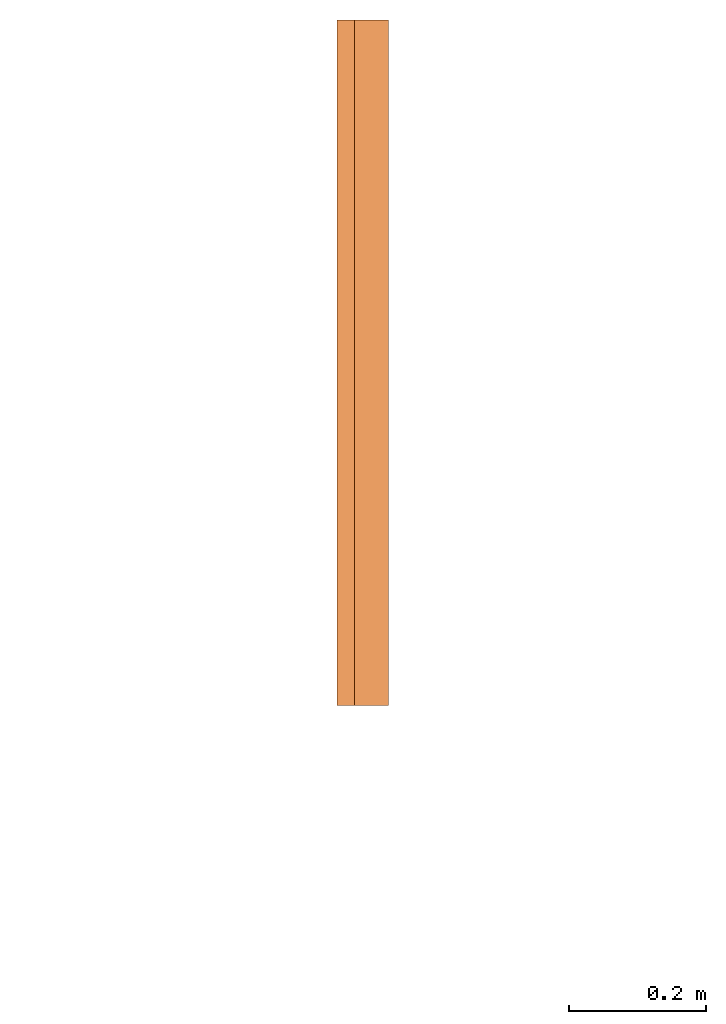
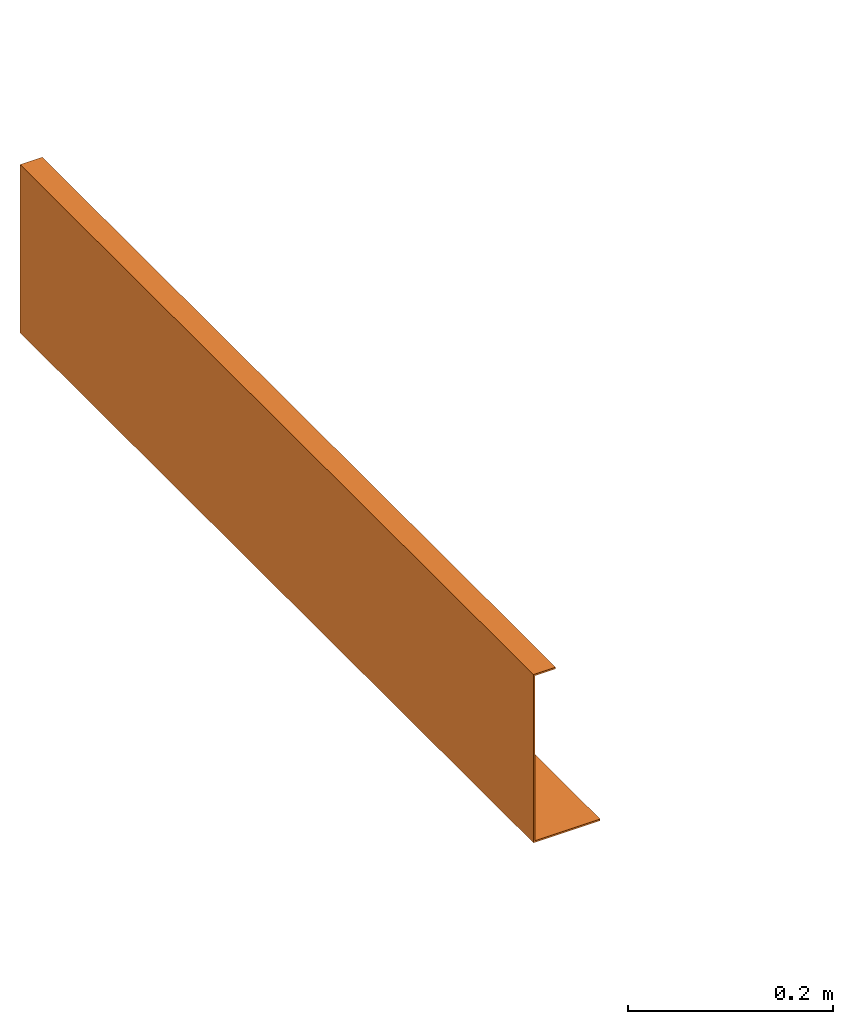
# One storey, part 2 of 2: 1 proxy.
"""IFC2X3 building model written with IfcOpenShell, lengths in millimetres."""

import ifcopenshell
import ifcopenshell.guid

model = None  # the IFC model being written
_history = None  # IfcOwnerHistory: only IFC2X3 demands one
_inside = {}  # id of a spatial element -> (the spatial element, [elements in it])
_under = {}  # id of a project, library or spatial element -> (it, [spatial elements below it])
_declared = {}  # id of a project -> (the project, [libraries it declares])
_typed = {}  # id of a type object -> (the type object, [elements of that type])
_made_of = {}  # id of a material, layer set ... -> (it, [elements and type objects made of it])


def new_model(schema):
    """Start an empty IFC model of exactly this schema.

    Asked for "IFC4X3", IfcOpenShell would pick the latest addendum, in which some entities
    have other attributes; the version numbers below select the first issue.
    IFC2X3 requires an IfcOwnerHistory on every rooted entity: one is made here for all.
    """
    global model, _history
    if schema == "IFC4X3":
        model = ifcopenshell.file(schema_version=(4, 3, 0, 0))
    else:
        model = ifcopenshell.file(schema=schema)
    _inside.clear()
    _under.clear()
    _declared.clear()
    _typed.clear()
    _made_of.clear()
    _history = None
    if model.schema == "IFC2X3":
        org = make("IfcOrganization", Name="unknown")
        user = make(
            "IfcPersonAndOrganization",
            ThePerson=make("IfcPerson", FamilyName="unknown"),
            TheOrganization=org,
        )
        app = make(
            "IfcApplication",
            ApplicationDeveloper=org,
            Version="unknown",
            ApplicationFullName="unknown",
            ApplicationIdentifier="unknown",
        )
        _history = make(
            "IfcOwnerHistory",
            OwningUser=user,
            OwningApplication=app,
            ChangeAction="ADDED",
            CreationDate=0,
        )
    return model


def make(cls, **values):
    """One entity of the class cls with the attributes given. An attribute that is None is left unset."""
    return model.create_entity(
        cls, **{name: value for name, value in values.items() if value is not None}
    )


def entity(cls, *values):
    """Any entity or typed value of the class cls, its attributes in the order of the schema. None: left unset."""
    e = model.create_entity(cls)
    for i, value in enumerate(values):
        if value is not None:
            e[i] = value
    return e


def rooted(cls, **values):
    """An entity with a GlobalId (a new one), such as an element, a storey or a relation."""
    return make(cls, GlobalId=ifcopenshell.guid.new(), OwnerHistory=_history, **values)


def si_unit(unit_type, name, prefix=None):
    """IfcSIUnit, for example si_unit("LENGTHUNIT", "METRE", prefix="MILLI")."""
    return make("IfcSIUnit", UnitType=unit_type, Prefix=prefix, Name=name)


def converted_unit(unit_type, name, factor, base, dimensions=None, offset=None):
    """IfcConversionBasedUnit, such as the inch: factor (a typed value) times the base unit."""
    return make(
        "IfcConversionBasedUnit"
        if offset is None
        else "IfcConversionBasedUnitWithOffset",
        ConversionOffset=offset,
        Dimensions=None
        if dimensions is None
        else entity("IfcDimensionalExponents", *dimensions),
        UnitType=unit_type,
        Name=name,
        ConversionFactor=make(
            "IfcMeasureWithUnit", ValueComponent=factor, UnitComponent=base
        ),
    )


def derived_unit(unit_type, elements):
    """IfcDerivedUnit: a product of units, each with its exponent."""
    return make(
        "IfcDerivedUnit",
        Elements=[
            make("IfcDerivedUnitElement", Unit=unit, Exponent=power)
            for unit, power in elements
        ],
        UnitType=unit_type,
    )


def assignment(units):
    """IfcUnitAssignment: the units of a project."""
    return None if units is None else make("IfcUnitAssignment", Units=units)


def point(xyz):
    """IfcCartesianPoint."""
    return None if xyz is None else make("IfcCartesianPoint", Coordinates=xyz)


def direction(xyz):
    """IfcDirection."""
    return None if xyz is None else make("IfcDirection", DirectionRatios=xyz)


def frame(location, z_axis=None, x_axis=None):
    """IfcAxis2Placement3D, a coordinate frame: its origin and axes. An axis left out is left unset."""
    return make(
        "IfcAxis2Placement3D",
        Location=point(location),
        Axis=direction(z_axis),
        RefDirection=direction(x_axis),
    )


def origin():
    """The frame at (0, 0, 0) with its axes left unset."""
    return frame((0.0, 0.0, 0.0))


def place(relative_to, where):
    """IfcLocalPlacement: puts the frame where relative to a parent placement (None: the world)."""
    return make(
        "IfcLocalPlacement", PlacementRelTo=relative_to, RelativePlacement=where
    )


def context(
    kind, dimensions, precision=None, world=None, true_north=None, identifier=None
):
    """IfcGeometricRepresentationContext, for example the 3D "Model" context."""
    return make(
        "IfcGeometricRepresentationContext",
        ContextIdentifier=identifier,
        ContextType=kind,
        CoordinateSpaceDimension=dimensions,
        Precision=precision,
        WorldCoordinateSystem=world,
        TrueNorth=true_north,
    )


def subcontext(parent, identifier, kind, view, scale=None):
    """IfcGeometricRepresentationSubContext, for example "Body" below "Model"."""
    return make(
        "IfcGeometricRepresentationSubContext",
        ContextIdentifier=identifier,
        ContextType=kind,
        ParentContext=parent,
        TargetScale=scale,
        TargetView=view,
    )


def project(units=None, contexts=None):
    """IfcProject with its units and contexts."""
    return rooted(
        "IfcProject",
        Name="project",
        RepresentationContexts=contexts,
        UnitsInContext=assignment(units),
    )


def spatial(cls, under=None, at=None, **own):
    """A site, building, storey or space (cls), placed at a placement, below another one or the project."""
    s = rooted(cls, ObjectPlacement=at, **own)
    if under is not None:
        _under.setdefault(under.id(), (under, []))[1].append(s)
    return s


def polyline(points):
    """IfcPolyline through the points."""
    return make("IfcPolyline", Points=[point(p) for p in points])


def outline(outer, holes=None, kind="AREA"):
    """IfcArbitraryClosedProfileDef: a profile drawn as a closed curve; with holes, ...WithVoids."""
    if holes is None:
        return make("IfcArbitraryClosedProfileDef", ProfileType=kind, OuterCurve=outer)
    return make(
        "IfcArbitraryProfileDefWithVoids",
        ProfileType=kind,
        OuterCurve=outer,
        InnerCurves=holes,
    )


def extrude(swept, where, along, depth):
    """IfcExtrudedAreaSolid: the profile swept, set in the frame where, extruded along a direction by depth."""
    return make(
        "IfcExtrudedAreaSolid",
        SweptArea=swept,
        Position=where,
        ExtrudedDirection=direction(along),
        Depth=depth,
    )


def shape(context_of_items, identifier, shape_type, items):
    """IfcShapeRepresentation: the items that make up one representation, for example the "Body"."""
    return make(
        "IfcShapeRepresentation",
        ContextOfItems=context_of_items,
        RepresentationIdentifier=identifier,
        RepresentationType=shape_type,
        Items=items,
    )


def source(mapping_origin, context_of_items, identifier, shape_type, items):
    """IfcRepresentationMap: a shape defined once, which mapped items show again and again."""
    return make(
        "IfcRepresentationMap",
        MappingOrigin=mapping_origin,
        MappedRepresentation=shape(context_of_items, identifier, shape_type, items),
    )


def transform(
    local_origin,
    x_axis=None,
    y_axis=None,
    z_axis=None,
    scale=None,
    scale2=None,
    scale3=None,
    uniform=True,
):
    """IfcCartesianTransformationOperator3D, or its non-uniform kind. x_axis, y_axis, z_axis: its Axis1, 2, 3."""
    if uniform:
        return make(
            "IfcCartesianTransformationOperator3D",
            Axis1=direction(x_axis),
            Axis2=direction(y_axis),
            LocalOrigin=point(local_origin),
            Scale=scale,
            Axis3=direction(z_axis),
        )
    return make(
        "IfcCartesianTransformationOperator3DnonUniform",
        Axis1=direction(x_axis),
        Axis2=direction(y_axis),
        LocalOrigin=point(local_origin),
        Scale=scale,
        Axis3=direction(z_axis),
        Scale2=scale2,
        Scale3=scale3,
    )


def mapped(mapping_source, mapping_target):
    """IfcMappedItem: shows the shape of a source again, moved by a transform."""
    return make(
        "IfcMappedItem", MappingSource=mapping_source, MappingTarget=mapping_target
    )


def material(Name=None, Category=None):
    """IfcMaterial."""
    return make("IfcMaterial", Name=Name, Category=Category)


def made_of(thing, what):
    """Note that an element or type object is made of a material, layer set ...; save() writes the relation."""
    if what is not None:
        _made_of.setdefault(what.id(), (what, []))[1].append(thing)
    return thing


def type_object(cls, material=None, **own):
    """A type object (cls), such as IfcWallType, which elements share."""
    return made_of(rooted(cls, **own), material)


def type_shapes(of_type, sources):
    """Give a type object the sources (RepresentationMaps) that its elements show as mapped items."""
    of_type.RepresentationMaps = sources


def element(
    cls,
    number,
    at=None,
    inside=None,
    cuts=None,
    type_object=None,
    material=None,
    context=None,
    identifier="Body",
    shape_type=None,
    held_by="IfcProductDefinitionShape",
    body=None,
    shapes=None,
    **own,
):
    """One element of the class cls, such as IfcWall. Its Tag is "e" and its number.

    at: its placement. inside: the storey or other place that contains it. cuts: it is an
    opening in that element (IfcRelVoidsElement). A single representation is given by context,
    identifier, shape_type and body (its items); several are given by shapes. held_by: the class
    of the entity that holds the representations. save() writes the other relations.
    """
    e = rooted(cls, Tag="e%d" % number, ObjectPlacement=at, **own)
    if body is not None:
        shapes = [shape(context, identifier, shape_type, body)]
    if shapes is not None:
        e.Representation = make(held_by, Representations=shapes)
    if inside is not None:
        _inside.setdefault(inside.id(), (inside, []))[1].append(e)
    if cuts is not None:
        rooted(
            "IfcRelVoidsElement", RelatingBuildingElement=cuts, RelatedOpeningElement=e
        )
    if type_object is not None:
        _typed.setdefault(type_object.id(), (type_object, []))[1].append(e)
    return made_of(e, material)


def aggregate(whole, parts):
    """IfcRelAggregates: a whole, such as a stair, and the parts it consists of."""
    return rooted("IfcRelAggregates", RelatingObject=whole, RelatedObjects=parts)


def save(model, path):
    """Write the relations noted so far, then the file.

    IfcRelAggregates (storeys below a building ...), IfcRelContainedInSpatialStructure (elements
    in a storey), IfcRelDefinesByType, IfcRelAssociatesMaterial and IfcRelDeclares: one each for
    every whole, place, type object, material and project.
    """
    for whole, parts in _under.values():
        aggregate(whole, parts)
    for where, things in _inside.values():
        rooted(
            "IfcRelContainedInSpatialStructure",
            RelatedElements=things,
            RelatingStructure=where,
        )
    for kind, things in _typed.values():
        rooted("IfcRelDefinesByType", RelatedObjects=things, RelatingType=kind)
    for what, things in _made_of.values():
        rooted("IfcRelAssociatesMaterial", RelatedObjects=things, RelatingMaterial=what)
    for by, libraries in _declared.values():
        rooted("IfcRelDeclares", RelatingContext=by, RelatedDefinitions=libraries)
    model.write(path)


model = new_model("IFC2X3")

# Units and contexts
model_context = context("Model", 3, precision=0.01, world=origin(), true_north=direction((6.12303176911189e-17, 1.0)))
body_context = subcontext(model_context, "Body", "Model", "MODEL_VIEW")
ifc_project = project(units=[si_unit("LENGTHUNIT", "METRE", prefix="MILLI"), si_unit("AREAUNIT", "SQUARE_METRE"), si_unit("VOLUMEUNIT", "CUBIC_METRE"), converted_unit("PLANEANGLEUNIT", "DEGREE", entity("IfcRatioMeasure", 0.0174532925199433), si_unit("PLANEANGLEUNIT", "RADIAN"), dimensions=[0, 0, 0, 0, 0, 0, 0]), si_unit("MASSUNIT", "GRAM", prefix="KILO"), derived_unit("MASSDENSITYUNIT", [(si_unit("MASSUNIT", "GRAM", prefix="KILO"), 1), (si_unit("LENGTHUNIT", "METRE"), -3)]), si_unit("TIMEUNIT", "SECOND"), si_unit("FREQUENCYUNIT", "HERTZ"), si_unit("THERMODYNAMICTEMPERATUREUNIT", "DEGREE_CELSIUS"), derived_unit("THERMALTRANSMITTANCEUNIT", [(si_unit("MASSUNIT", "GRAM", prefix="KILO"), 1), (si_unit("THERMODYNAMICTEMPERATUREUNIT", "KELVIN"), -1), (si_unit("TIMEUNIT", "SECOND"), -3)]), derived_unit("VOLUMETRICFLOWRATEUNIT", [(si_unit("LENGTHUNIT", "METRE"), 3), (si_unit("TIMEUNIT", "SECOND"), -1)]), si_unit("ELECTRICCURRENTUNIT", "AMPERE"), si_unit("ELECTRICVOLTAGEUNIT", "VOLT"), si_unit("POWERUNIT", "WATT"), si_unit("FORCEUNIT", "NEWTON", prefix="KILO"), si_unit("ILLUMINANCEUNIT", "LUX"), si_unit("LUMINOUSFLUXUNIT", "LUMEN"), si_unit("LUMINOUSINTENSITYUNIT", "CANDELA"), derived_unit("USERDEFINED", [(si_unit("MASSUNIT", "GRAM", prefix="KILO"), -1), (si_unit("LENGTHUNIT", "METRE"), -2), (si_unit("TIMEUNIT", "SECOND"), 3), (si_unit("LUMINOUSFLUXUNIT", "LUMEN"), 1)]), derived_unit("LINEARVELOCITYUNIT", [(si_unit("LENGTHUNIT", "METRE"), 1), (si_unit("TIMEUNIT", "SECOND"), -1)]), si_unit("PRESSUREUNIT", "PASCAL"), derived_unit("USERDEFINED", [(si_unit("LENGTHUNIT", "METRE"), -2), (si_unit("MASSUNIT", "GRAM", prefix="KILO"), 1), (si_unit("TIMEUNIT", "SECOND"), -2)])], contexts=[model_context])

# Site, building, storey
site_placement = place(None, origin())
site = spatial("IfcSite", under=ifc_project, at=site_placement, Name="Default", CompositionType="ELEMENT")
building_placement = place(site_placement, origin())
building = spatial("IfcBuilding", under=site, at=building_placement, CompositionType="ELEMENT")
storey_placement = place(building_placement, origin())
storey = spatial("IfcBuildingStorey", under=building, at=storey_placement, Name="Level 1", CompositionType="ELEMENT", Elevation=0.0)

# Proxy
ifc_material = material(Name="ISQ 300, Galvanized Z275")
building_element_proxy_type = type_object("IfcBuildingElementProxyType", Name="Bond-Lok FD1-Kerb Flashing", PredefinedType="NOTDEFINED", material=ifc_material)
shared_shape = source(origin(), body_context, "Body", "SweptSolid", [
    extrude(outline(polyline([(-100.0, -25.5), (100.0, -25.5), (100.0, -0.500000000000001), (98.0, -0.500000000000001), (98.0, -23.5), (-98.0, -23.5), (-98.0, 49.5), (-100.0, 49.5), (-100.0, -25.5)])), frame((25.5000000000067, -500.0, 102.533195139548), z_axis=(0.0, 1.0, 0.0), x_axis=(0.0, 0.0, 1.0)), (0.0, 0.0, 1.0), 1000.0),
])
type_shapes(building_element_proxy_type, [shared_shape])
proxy_placement = place(storey_placement, frame((-3922.89307559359, 4365.97743173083, 0.0)))
element("IfcBuildingElementProxy", 1, at=proxy_placement, inside=storey, type_object=building_element_proxy_type, material=ifc_material, Name="Bond-lok Kerb Flashing Family:Bond-Lok FD1-Kerb Flashing", ObjectType="Bond-Lok FD1-Kerb Flashing", context=body_context, shape_type="MappedRepresentation", body=[
    mapped(shared_shape, transform((0.0, 0.0, 0.0), scale=1.0)),
])

save(model, "model.ifc")
